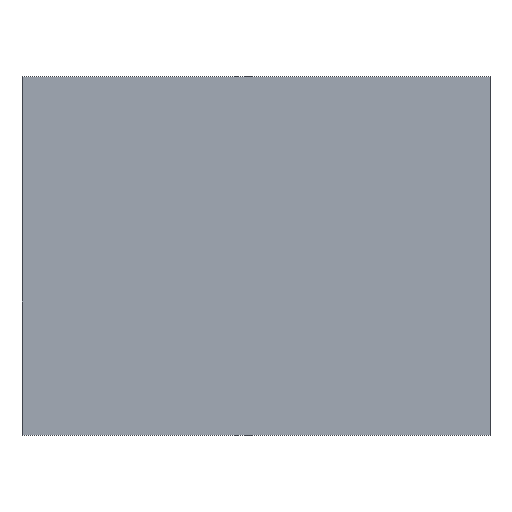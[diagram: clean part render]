
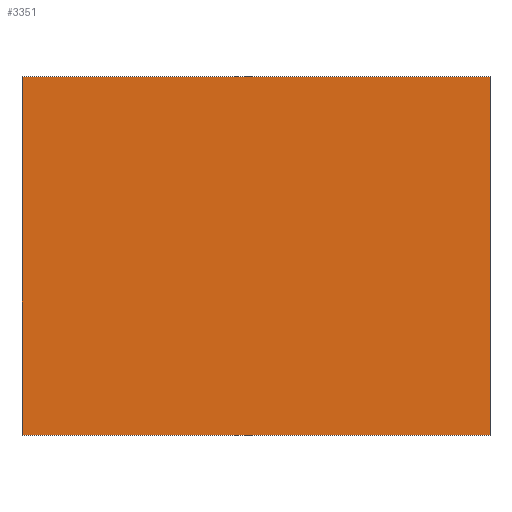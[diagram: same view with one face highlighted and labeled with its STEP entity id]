
A CAD part, top view. The second image highlights one B-rep face of the part: STEP entity #3351.
In plain terms, the highlighted planar face has unit normal (0, 0, 1).
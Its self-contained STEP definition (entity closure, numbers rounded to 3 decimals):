
#3215=CARTESIAN_POINT('Vertex',(107.,82.,34.)) ;
#3229=CARTESIAN_POINT('Vertex',(-107.,82.,34.)) ;
#3232=CARTESIAN_POINT('Line Origine',(0.,82.,34.)) ;
#3260=CARTESIAN_POINT('Vertex',(-107.,-82.,34.)) ;
#3263=CARTESIAN_POINT('Line Origine',(-107.,0.,34.)) ;
#3291=CARTESIAN_POINT('Vertex',(107.,-82.,34.)) ;
#3294=CARTESIAN_POINT('Line Origine',(0.,-82.,34.)) ;
#3316=CARTESIAN_POINT('Line Origine',(107.,0.,34.)) ;
#3340=CARTESIAN_POINT('Axis2P3D Location',(0.,0.,34.)) ;
#3233=DIRECTION('Vector Direction',(1.,0.,0.)) ;
#3264=DIRECTION('Vector Direction',(0.,1.,0.)) ;
#3295=DIRECTION('Vector Direction',(-1.,0.,0.)) ;
#3317=DIRECTION('Vector Direction',(0.,-1.,0.)) ;
#3341=DIRECTION('Axis2P3D Direction',(0.,0.,1.)) ;
#3342=DIRECTION('Axis2P3D XDirection',(1.,0.,0.)) ;
#3343=AXIS2_PLACEMENT_3D('Plane Axis2P3D',#3340,#3341,#3342) ;
#3346=ORIENTED_EDGE('',*,*,#3236,.T.) ;
#3347=ORIENTED_EDGE('',*,*,#3267,.T.) ;
#3348=ORIENTED_EDGE('',*,*,#3298,.T.) ;
#3349=ORIENTED_EDGE('',*,*,#3320,.T.) ;
#3234=VECTOR('Line Direction',#3233,1.) ;
#3265=VECTOR('Line Direction',#3264,1.) ;
#3296=VECTOR('Line Direction',#3295,1.) ;
#3318=VECTOR('Line Direction',#3317,1.) ;
#3351=ADVANCED_FACE('cavity',(#3350),#3344,.T.) ;
#3236=EDGE_CURVE('',#3216,#3230,#3235,.F.) ;
#3267=EDGE_CURVE('',#3230,#3261,#3266,.F.) ;
#3298=EDGE_CURVE('',#3261,#3292,#3297,.F.) ;
#3320=EDGE_CURVE('',#3292,#3216,#3319,.F.) ;
#3345=EDGE_LOOP('',(#3346,#3347,#3348,#3349)) ;
#3350=FACE_OUTER_BOUND('',#3345,.T.) ;
#3235=LINE('Line',#3232,#3234) ;
#3266=LINE('Line',#3263,#3265) ;
#3297=LINE('Line',#3294,#3296) ;
#3319=LINE('Line',#3316,#3318) ;
#3344=PLANE('Plane',#3343) ;
#3216=VERTEX_POINT('',#3215) ;
#3230=VERTEX_POINT('',#3229) ;
#3261=VERTEX_POINT('',#3260) ;
#3292=VERTEX_POINT('',#3291) ;
